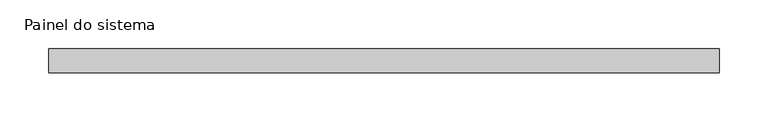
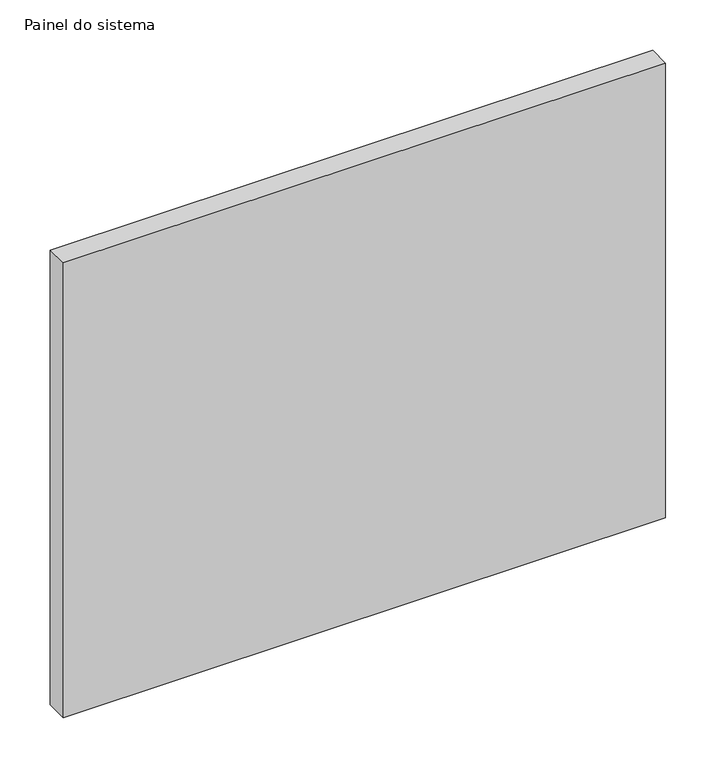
"""IFC4 building model written with IfcOpenShell, lengths in millimetres: plate geometry, Painel do sistema : Envidraçado."""

from ifc_helpers import new_model, si_unit, origin, origin_with_axes, place, context, project, spatial, polyline, outline, extrude, source, transform, mapped, element, save


def painel_do_sistema_fd96e421(model_context):
    return source(origin(), model_context, "Body", "SweptSolid", [
        extrude(outline(polyline([(344.6997711, 24.5), (-344.6997711, 24.5), (-344.6997711, 49.5), (344.6997711, 49.5), (344.6997711, 24.5)])), origin_with_axes(), (0.0, 0.0, 1.0), 550.0),
    ])


if __name__ == "__main__":
    model = new_model("IFC4")
    model_context = context("Model", 3, world=origin())
    ifc_project = project(units=[si_unit("LENGTHUNIT", "METRE", prefix="MILLI")], contexts=[model_context])
    site = spatial("IfcSite", under=ifc_project)
    building = spatial("IfcBuilding", under=site)
    placement = place(None, origin())
    painel_do_sistema_shape = painel_do_sistema_fd96e421(model_context)
    element("IfcPlate", 1, ObjectType="Painel do sistema : Envidraçado", at=placement, inside=building, context=model_context, shape_type="MappedRepresentation", body=[
        mapped(painel_do_sistema_shape, transform((0.0, 0.0, 0.0), x_axis=(1.0, 0.0, 0.0), y_axis=(0.0, 1.0, 0.0), z_axis=(0.0, 0.0, 1.0))),
    ])
    save(model, "model.ifc")
